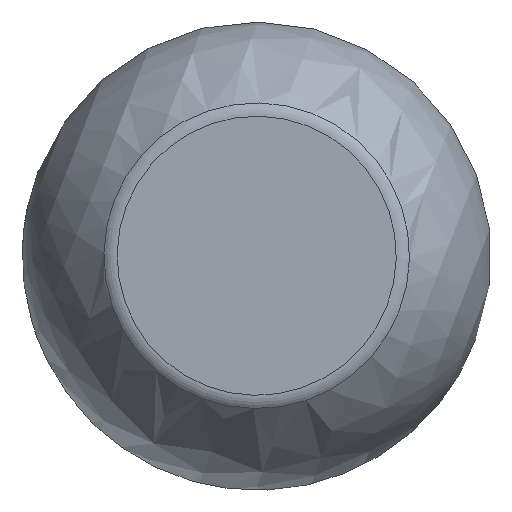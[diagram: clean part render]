
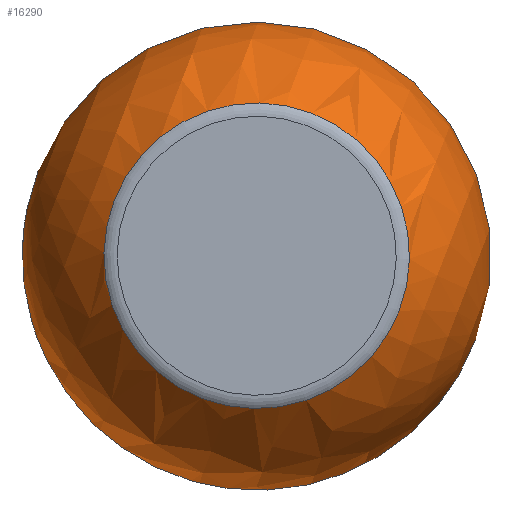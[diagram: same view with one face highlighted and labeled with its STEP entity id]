
A CAD part, top view. The second image highlights one B-rep face of the part: STEP entity #16290.
In plain terms, the highlighted spherical face has radius 18.326 mm.
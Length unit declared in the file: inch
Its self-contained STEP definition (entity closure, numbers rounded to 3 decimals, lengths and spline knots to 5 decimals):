
#2848=SPHERICAL_SURFACE('',#17351,0.7215);
#3378=CIRCLE('',#17350,0.47012);
#3379=CIRCLE('',#17352,0.40377);
#3879=FACE_BOUND('',#5019,.T.);
#3880=FACE_BOUND('',#5020,.T.);
#5019=EDGE_LOOP('',(#11171));
#5020=EDGE_LOOP('',(#11172));
#6957=VERTEX_POINT('',#21808);
#6958=VERTEX_POINT('',#21811);
#8645=EDGE_CURVE('',#6957,#6957,#3378,.T.);
#8646=EDGE_CURVE('',#6958,#6958,#3379,.T.);
#11171=ORIENTED_EDGE('',*,*,#8645,.T.);
#11172=ORIENTED_EDGE('',*,*,#8646,.F.);
#16290=ADVANCED_FACE('',(#3879,#3880),#2848,.T.);
#17350=AXIS2_PLACEMENT_3D('',#21809,#18436,#18437);
#17351=AXIS2_PLACEMENT_3D('',#21810,#18438,#18439);
#17352=AXIS2_PLACEMENT_3D('',#21812,#18440,#18441);
#18436=DIRECTION('center_axis',(1.,0.,0.));
#18437=DIRECTION('ref_axis',(0.,0.,-1.));
#18438=DIRECTION('center_axis',(0.,0.,1.));
#18439=DIRECTION('ref_axis',(1.,0.,0.));
#18440=DIRECTION('center_axis',(1.,0.,0.));
#18441=DIRECTION('ref_axis',(0.,0.,-1.));
#21808=CARTESIAN_POINT('',(0.01509,0.47012,0.));
#21809=CARTESIAN_POINT('Origin',(0.01509,0.,0.));
#21810=CARTESIAN_POINT('Origin',(0.5624,0.,0.));
#21811=CARTESIAN_POINT('',(1.16034,0.40377,0.));
#21812=CARTESIAN_POINT('Origin',(1.16034,0.,0.));
